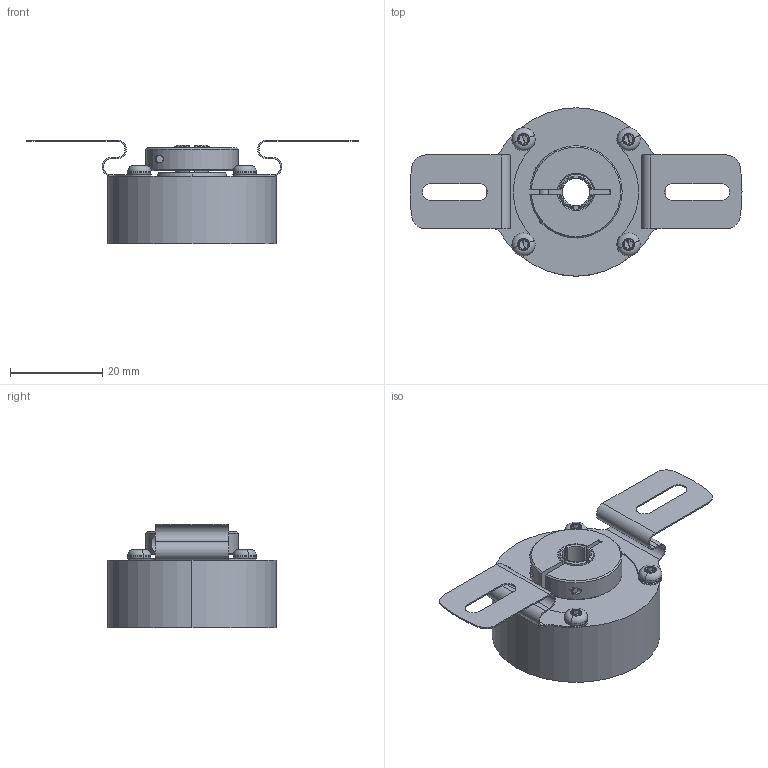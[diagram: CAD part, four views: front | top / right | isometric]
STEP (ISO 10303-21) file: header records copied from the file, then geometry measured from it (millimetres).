
FILE_DESCRIPTION (( 'STEP AP214' ), '1' );
FILE_NAME ('drawing-ucd-k6bd-q3a-n.STEP', '2017-02-23T09:49:18', ( '' ), ( '' ), 'SwSTEP 2.0', 'SolidWorks 2015', '' );
FILE_SCHEMA (( 'AUTOMOTIVE_DESIGN' ));
Length unit declared in the file: millimetre
Products named in the file (1): drawing-ucd-k6bd-q3a-n
Bounding box: 72 x 36.5 x 22.55 mm (x, y, z)
Volume: 14324 mm3; surface area: 18162.4 mm2
Topology: 30 solids, 31 shells, 604 faces, 1486 edges, 911 vertices
Faces by surface type: cylinder 181, cone 157, plane 144, bspline 78, torus 44
Entity records: 27637 total; most frequent: CARTESIAN_POINT 6591, DIRECTION 3126, ORIENTED_EDGE 2856, EDGE_CURVE 1428, AXIS2_PLACEMENT_3D 1346, VERTEX_POINT 911, CIRCLE 819, EDGE_LOOP 671
